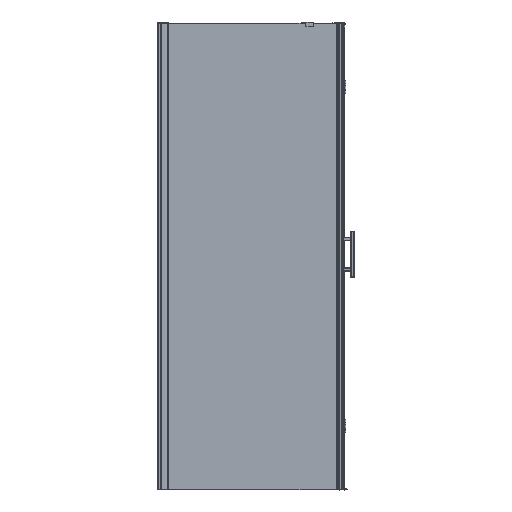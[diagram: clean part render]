
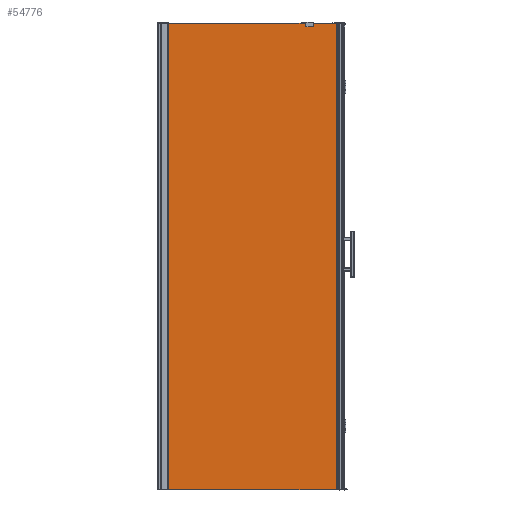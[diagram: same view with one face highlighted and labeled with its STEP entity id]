
A CAD part, top view. The second image highlights one B-rep face of the part: STEP entity #54776.
In plain terms, the highlighted planar face has unit normal (0, 0, 1).
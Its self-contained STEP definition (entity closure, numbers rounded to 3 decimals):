
#5894=FACE_OUTER_BOUND('',#9286,.T.);
#9286=EDGE_LOOP('',(#36253,#36254,#36255,#36256));
#12836=LINE('',#77094,#17648);
#12844=LINE('',#77109,#17656);
#12845=LINE('',#77111,#17657);
#12846=LINE('',#77112,#17658);
#17648=VECTOR('',#62926,10.);
#17656=VECTOR('',#62938,10.);
#17657=VECTOR('',#62941,10.);
#17658=VECTOR('',#62942,10.);
#22459=VERTEX_POINT('',#77090);
#22461=VERTEX_POINT('',#77093);
#22465=VERTEX_POINT('',#77105);
#22466=VERTEX_POINT('',#77107);
#27730=EDGE_CURVE('',#22459,#22461,#12836,.T.);
#27738=EDGE_CURVE('',#22465,#22466,#12844,.F.);
#27739=EDGE_CURVE('',#22465,#22459,#12845,.T.);
#27740=EDGE_CURVE('',#22461,#22466,#12846,.T.);
#36253=ORIENTED_EDGE('',*,*,#27739,.F.);
#36254=ORIENTED_EDGE('',*,*,#27738,.T.);
#36255=ORIENTED_EDGE('',*,*,#27740,.F.);
#36256=ORIENTED_EDGE('',*,*,#27730,.F.);
#53268=PLANE('',#58246);
#54776=ADVANCED_FACE('',(#5894),#53268,.T.);
#58246=AXIS2_PLACEMENT_3D('',#77110,#62939,#62940);
#62926=DIRECTION('',(0.,1.,0.));
#62938=DIRECTION('',(0.,-1.,0.));
#62939=DIRECTION('center_axis',(0.,0.,
1.));
#62940=DIRECTION('ref_axis',(1.,0.,0.));
#62941=DIRECTION('',(-1.,0.,0.));
#62942=DIRECTION('',(1.,0.,0.));
#77090=CARTESIAN_POINT('',(-1351.543,-1449.831,-919.));
#77093=CARTESIAN_POINT('',(-1351.543,500.169,-919.));
#77094=CARTESIAN_POINT('',(-1351.543,-1349.831,-919.));
#77105=CARTESIAN_POINT('',(-624.944,-1449.831,-919.));
#77107=CARTESIAN_POINT('',(-624.944,500.169,-919.));
#77109=CARTESIAN_POINT('',(-624.944,-1349.831,-919.));
#77110=CARTESIAN_POINT('Origin',(-1351.543,-1349.831,-919.));
#77111=CARTESIAN_POINT('',(-1119.894,-1449.831,-919.));
#77112=CARTESIAN_POINT('',(-424.944,500.169,-919.));
